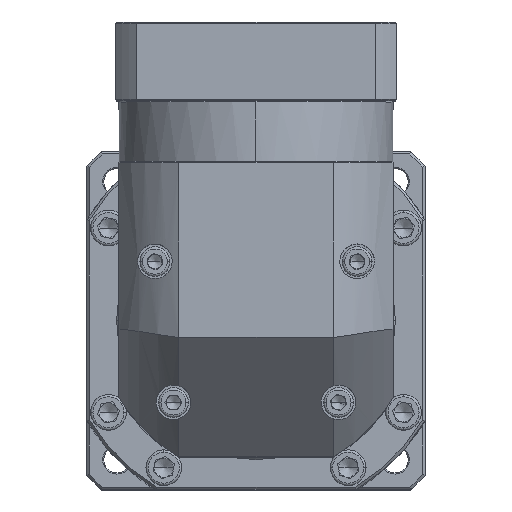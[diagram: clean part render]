
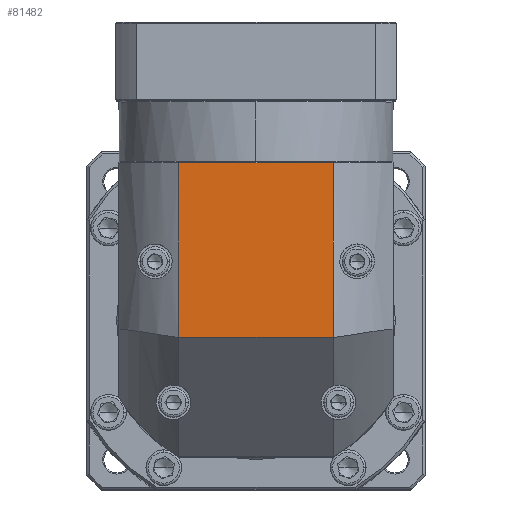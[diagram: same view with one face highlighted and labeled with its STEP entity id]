
A CAD part, top view. The second image highlights one B-rep face of the part: STEP entity #81482.
In plain terms, the highlighted planar face has unit normal (0, 0, 1).
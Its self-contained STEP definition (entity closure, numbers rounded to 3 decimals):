
#382 = ORIENTED_EDGE ( 'NONE', *, *, #131244, .F. ) ;
#7930 = ORIENTED_EDGE ( 'NONE', *, *, #105487, .F. ) ;
#11388 = LINE ( 'NONE', #12137, #36923 ) ;
#12137 = CARTESIAN_POINT ( 'NONE',  ( -55.843, -67.701, 440.3 ) ) ;
#32050 = ORIENTED_EDGE ( 'NONE', *, *, #56517, .F. ) ;
#36923 = VECTOR ( 'NONE', #101472, 1000. ) ;
#37645 = ORIENTED_EDGE ( 'NONE', *, *, #90277, .F. ) ;
#43763 = LINE ( 'NONE', #75487, #72713 ) ;
#45012 = FACE_OUTER_BOUND ( 'NONE', #119447, .T. ) ;
#47237 = CARTESIAN_POINT ( 'NONE',  ( -55.843, 55.699, 440.3 ) ) ;
#48381 = VERTEX_POINT ( 'NONE', #79900 ) ;
#48470 = AXIS2_PLACEMENT_3D ( 'NONE', #134250, #135670, #70195 ) ;
#49597 = DIRECTION ( 'NONE',  ( 1., 0., 0. ) ) ;
#56517 = EDGE_CURVE ( 'NONE', #48381, #74644, #43763, .T. ) ;
#59728 = PLANE ( 'NONE',  #48470 ) ;
#60085 = CARTESIAN_POINT ( 'NONE',  ( -80.943, 55.699, 440.3 ) ) ;
#65945 = LINE ( 'NONE', #129873, #96414 ) ;
#68754 = CARTESIAN_POINT ( 'NONE',  ( -55.843, -17.701, 440.3 ) ) ;
#69024 = VERTEX_POINT ( 'NONE', #47237 ) ;
#70195 = DIRECTION ( 'NONE',  ( 1., 0., 0. ) ) ;
#72713 = VECTOR ( 'NONE', #139072, 1000. ) ;
#74644 = VERTEX_POINT ( 'NONE', #68754 ) ;
#75487 = CARTESIAN_POINT ( 'NONE',  ( -80.943, -17.701, 440.3 ) ) ;
#79900 = CARTESIAN_POINT ( 'NONE',  ( 8.957, -17.701, 440.3 ) ) ;
#81482 = ADVANCED_FACE ( 'NONE', ( #45012 ), #59728, .F. ) ;
#85944 = CARTESIAN_POINT ( 'NONE',  ( 8.957, 55.699, 440.3 ) ) ;
#90277 = EDGE_CURVE ( 'NONE', #74644, #69024, #11388, .T. ) ;
#96414 = VECTOR ( 'NONE', #118481, 1000. ) ;
#99059 = VECTOR ( 'NONE', #49597, 1000. ) ;
#101472 = DIRECTION ( 'NONE',  ( 0., 1., 0. ) ) ;
#101929 = VERTEX_POINT ( 'NONE', #85944 ) ;
#104278 = LINE ( 'NONE', #60085, #99059 ) ;
#105487 = EDGE_CURVE ( 'NONE', #69024, #101929, #104278, .T. ) ;
#118481 = DIRECTION ( 'NONE',  ( 0., -1., 0. ) ) ;
#119447 = EDGE_LOOP ( 'NONE', ( #37645, #32050, #382, #7930 ) ) ;
#129873 = CARTESIAN_POINT ( 'NONE',  ( 8.957, -67.701, 440.3 ) ) ;
#131244 = EDGE_CURVE ( 'NONE', #101929, #48381, #65945, .T. ) ;
#134250 = CARTESIAN_POINT ( 'NONE',  ( -23.443, -10.201, 440.3 ) ) ;
#135670 = DIRECTION ( 'NONE',  ( 0., 0., -1. ) ) ;
#139072 = DIRECTION ( 'NONE',  ( -1., 0., 0. ) ) ;
